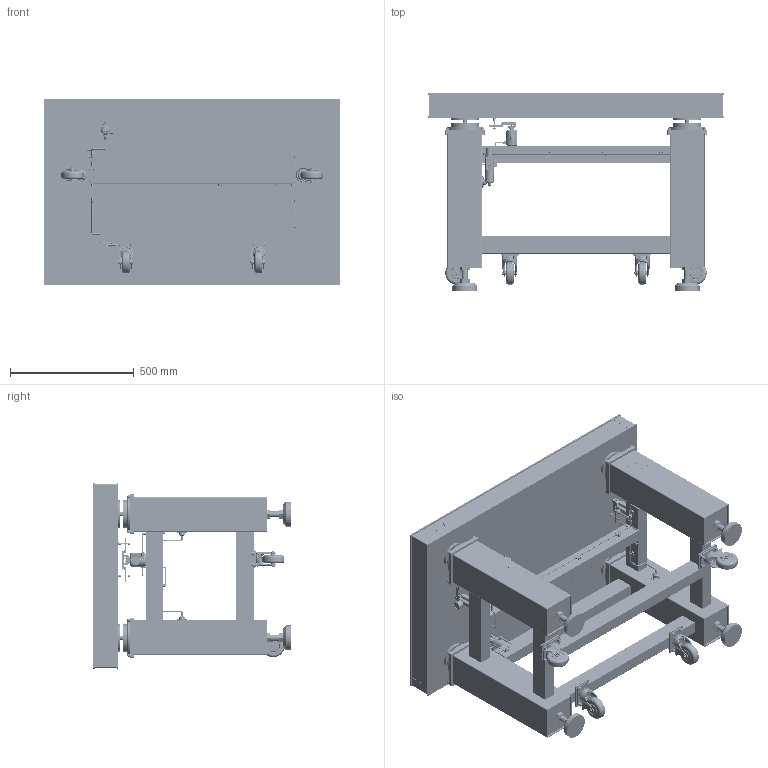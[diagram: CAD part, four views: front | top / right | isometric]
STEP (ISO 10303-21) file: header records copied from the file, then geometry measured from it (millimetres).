
FILE_DESCRIPTION (( 'STEP AP203' ), '1' );
FILE_NAME ('GPT-1207 ¹âÑ§Æ½Ì¨.STEP', '2018-02-06T06:00:46', ( 'pc' ), ( '' ), 'SwSTEP 2.0', 'SolidWorks 2016', '' );
FILE_SCHEMA (( 'CONFIG_CONTROL_DESIGN' ));
Products named in the file (1): GPT-1207 嫖悝す怢
Bounding box: 1200 x 800 x 750 mm (x, y, z)
Volume: 26289969.1 mm3; surface area: 10914174.1 mm2
Topology: 351 solids, 359 shells, 14656 faces, 37095 edges, 23573 vertices
Faces by surface type: cylinder 5913, plane 5157, bspline 1432, cone 1270, torus 812, sphere 72
Entity records: 467007 total; most frequent: CARTESIAN_POINT 108483, DIRECTION 74733, ORIENTED_EDGE 73342, EDGE_CURVE 36671, AXIS2_PLACEMENT_3D 28556, VERTEX_POINT 23549, EDGE_LOOP 18910, VECTOR 17621
